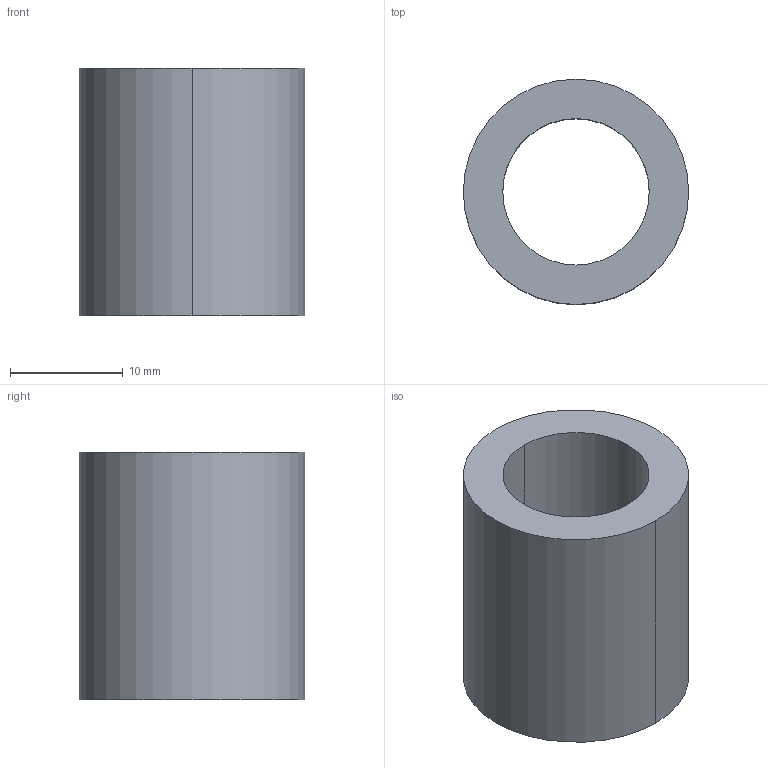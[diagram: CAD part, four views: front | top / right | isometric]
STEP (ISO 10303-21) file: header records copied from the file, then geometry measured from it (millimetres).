
FILE_DESCRIPTION(/* description */ (''),/* implementation_level */ '2;1');
FILE_NAME(/* name */ '3d_tgbz13-22_00329_r00.stp',/* time_stamp */ '2011-01-10T14:09:03+09:00',/* author */ ('MISUMI'),/* organization */ (''),/* preprocessor_version */ 'ST-DEVELOPER v11',/* originating_system */ 'UGS - NX 5.0',/* authorisation */ '');
FILE_SCHEMA (('CONFIG_CONTROL_DESIGN'));
Length unit declared in the file: millimetre
Products named in the file (1): 3d_tgbz13-22_00329_r00
Bounding box: 20 x 20 x 22 mm (x, y, z)
Volume: 3991.4 mm3; surface area: 2643.7 mm2
Topology: 1 solids, 1 shells, 6 faces, 12 edges, 8 vertices
Faces by surface type: cylinder 4, plane 2
Entity records: 254 total; most frequent: DIRECTION 34, CARTESIAN_POINT 27, ORIENTED_EDGE 24, AXIS2_PLACEMENT_3D 15, EDGE_CURVE 12, EDGE_LOOP 8, CIRCLE 8, VERTEX_POINT 8
